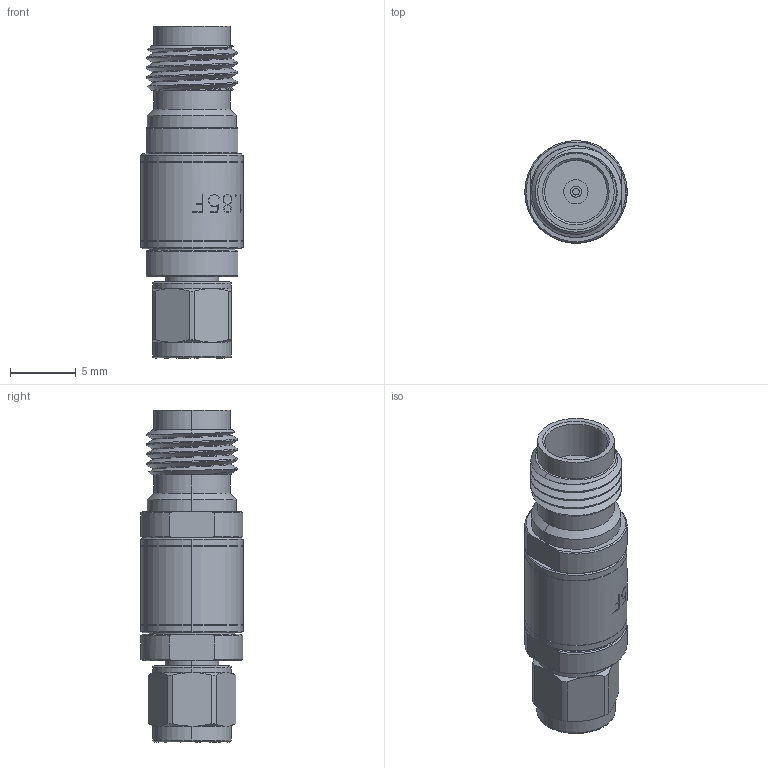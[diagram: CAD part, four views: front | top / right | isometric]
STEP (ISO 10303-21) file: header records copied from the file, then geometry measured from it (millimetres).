
FILE_DESCRIPTION (( 'STEP AP203' ), '1' );
FILE_NAME ('2234000K001-835-Cst.STEP', '2020-10-29T20:23:54', ( '' ), ( '' ), 'SwSTEP 2.0', 'SolidWorks 2019', '' );
FILE_SCHEMA (( 'CONFIG_CONTROL_DESIGN' ));
Length unit declared in the file: inch
Products named in the file (1): 2234000K001-835-Cst
Bounding box: 7.81 x 7.81 x 25.32 mm (x, y, z)
Volume: 858.6 mm3; surface area: 973.8 mm2
Topology: 1 solids, 1 shells, 369 faces, 950 edges, 618 vertices
Faces by surface type: bspline 125, plane 107, cylinder 91, cone 46
Entity records: 13838 total; most frequent: CARTESIAN_POINT 5603, ORIENTED_EDGE 1900, DIRECTION 1363, EDGE_CURVE 950, VERTEX_POINT 618, AXIS2_PLACEMENT_3D 496, EDGE_LOOP 406, LINE 371
